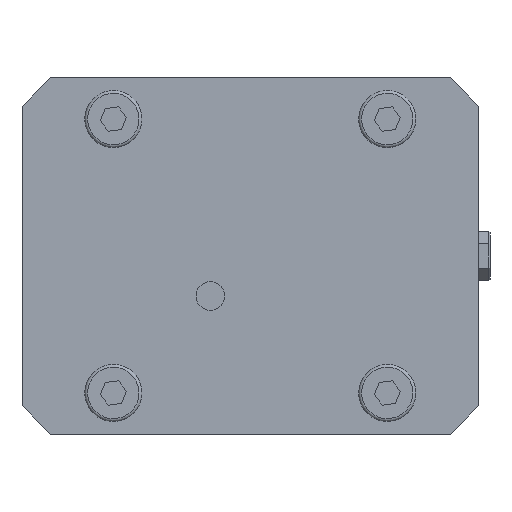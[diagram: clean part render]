
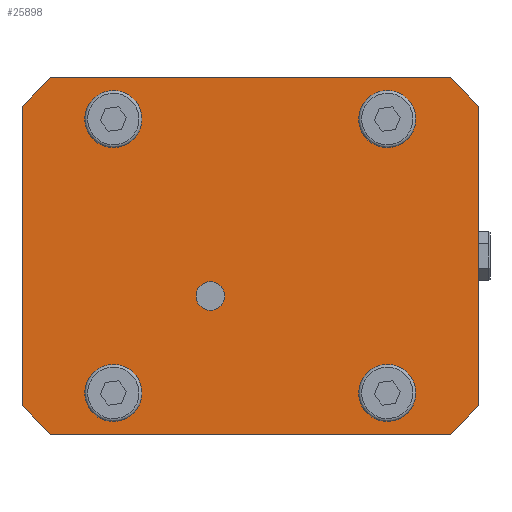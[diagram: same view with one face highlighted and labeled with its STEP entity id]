
A CAD part, front view. The second image highlights one B-rep face of the part: STEP entity #25898.
In plain terms, the highlighted planar face has unit normal (0, -1, 0).
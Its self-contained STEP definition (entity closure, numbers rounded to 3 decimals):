
#47 = AXIS2_PLACEMENT_3D ( 'NONE', #38485, #10433, #13110 ) ;
#2702 = VECTOR ( 'NONE', #30499, 1000. ) ;
#3549 = DIRECTION ( 'NONE',  ( 0., 0., -1. ) ) ;
#3553 = FACE_BOUND ( 'NONE', #28320, .T. ) ;
#4009 = FACE_OUTER_BOUND ( 'NONE', #44071, .T. ) ;
#4069 = CARTESIAN_POINT ( 'NONE',  ( 48., 0., 48. ) ) ;
#4362 = CIRCLE ( 'NONE', #43089, 8. ) ;
#4613 = ORIENTED_EDGE ( 'NONE', *, *, #39093, .T. ) ;
#5235 = DIRECTION ( 'NONE',  ( -1., 0., 0. ) ) ;
#6592 = VECTOR ( 'NONE', #31451, 1000. ) ;
#7080 = LINE ( 'NONE', #21305, #36572 ) ;
#7491 = CARTESIAN_POINT ( 'NONE',  ( -48., 0., 48. ) ) ;
#7901 = EDGE_CURVE ( 'NONE', #26261, #26261, #28909, .T. ) ;
#8027 = EDGE_CURVE ( 'NONE', #8096, #8096, #4362, .T. ) ;
#8096 = VERTEX_POINT ( 'NONE', #22346 ) ;
#8124 = CARTESIAN_POINT ( 'NONE',  ( -70., 0., 62.5 ) ) ;
#8578 = AXIS2_PLACEMENT_3D ( 'NONE', #4069, #35815, #18078 ) ;
#8585 = DIRECTION ( 'NONE',  ( 0., 1., 0. ) ) ;
#8833 = AXIS2_PLACEMENT_3D ( 'NONE', #15893, #31061, #45068 ) ;
#9557 = EDGE_CURVE ( 'NONE', #16388, #25493, #7080, .T. ) ;
#9944 = DIRECTION ( 'NONE',  ( -0.707, 0., -0.707 ) ) ;
#10173 = LINE ( 'NONE', #24199, #30420 ) ;
#10433 = DIRECTION ( 'NONE',  ( 0., 1., 0. ) ) ;
#10788 = FACE_BOUND ( 'NONE', #14899, .T. ) ;
#11023 = DIRECTION ( 'NONE',  ( 0., 1., 0. ) ) ;
#12808 = ORIENTED_EDGE ( 'NONE', *, *, #30305, .T. ) ;
#13110 = DIRECTION ( 'NONE',  ( 0., 0., -1. ) ) ;
#14180 = ORIENTED_EDGE ( 'NONE', *, *, #7901, .F. ) ;
#14307 = CARTESIAN_POINT ( 'NONE',  ( -56., 0., -48. ) ) ;
#14390 = CARTESIAN_POINT ( 'NONE',  ( 80., 0., 52.5 ) ) ;
#14632 = CARTESIAN_POINT ( 'NONE',  ( -70., 0., -62.5 ) ) ;
#14899 = EDGE_LOOP ( 'NONE', ( #26541 ) ) ;
#15642 = ORIENTED_EDGE ( 'NONE', *, *, #28352, .T. ) ;
#15893 = CARTESIAN_POINT ( 'NONE',  ( -14., 0., -14. ) ) ;
#16388 = VERTEX_POINT ( 'NONE', #24686 ) ;
#16707 = CARTESIAN_POINT ( 'NONE',  ( 80., 0., 52.5 ) ) ;
#17223 = VERTEX_POINT ( 'NONE', #14390 ) ;
#17295 = VERTEX_POINT ( 'NONE', #8124 ) ;
#18078 = DIRECTION ( 'NONE',  ( 1., 0., 0. ) ) ;
#18269 = FACE_BOUND ( 'NONE', #45901, .T. ) ;
#18743 = CIRCLE ( 'NONE', #47, 8. ) ;
#19310 = CARTESIAN_POINT ( 'NONE',  ( -80., 0., -52.5 ) ) ;
#19325 = CARTESIAN_POINT ( 'NONE',  ( -48., 0., -48. ) ) ;
#19404 = EDGE_CURVE ( 'NONE', #33473, #33473, #30960, .T. ) ;
#19550 = VECTOR ( 'NONE', #41377, 1000. ) ;
#19798 = DIRECTION ( 'NONE',  ( -1., 0., 0. ) ) ;
#20098 = EDGE_CURVE ( 'NONE', #37692, #37692, #18743, .T. ) ;
#20199 = VERTEX_POINT ( 'NONE', #43515 ) ;
#20447 = VERTEX_POINT ( 'NONE', #14307 ) ;
#20588 = CARTESIAN_POINT ( 'NONE',  ( 80., 0., 62.5 ) ) ;
#20703 = CARTESIAN_POINT ( 'NONE',  ( 70., 0., -62.5 ) ) ;
#21305 = CARTESIAN_POINT ( 'NONE',  ( -80., 0., -62.5 ) ) ;
#22346 = CARTESIAN_POINT ( 'NONE',  ( -48., 0., 56. ) ) ;
#22781 = EDGE_LOOP ( 'NONE', ( #34502 ) ) ;
#22943 = LINE ( 'NONE', #37144, #37606 ) ;
#23768 = ORIENTED_EDGE ( 'NONE', *, *, #34921, .T. ) ;
#23988 = CARTESIAN_POINT ( 'NONE',  ( 80., 0., -52.5 ) ) ;
#24199 = CARTESIAN_POINT ( 'NONE',  ( -70., 0., 62.5 ) ) ;
#24686 = CARTESIAN_POINT ( 'NONE',  ( -80., 0., 52.5 ) ) ;
#25012 = CARTESIAN_POINT ( 'NONE',  ( 80., 0., -62.5 ) ) ;
#25493 = VERTEX_POINT ( 'NONE', #19310 ) ;
#25898 = ADVANCED_FACE ( 'NONE', ( #32010, #10788, #3553, #32931, #18269, #4009 ), #28489, .F. ) ;
#26261 = VERTEX_POINT ( 'NONE', #33238 ) ;
#26541 = ORIENTED_EDGE ( 'NONE', *, *, #20098, .T. ) ;
#27212 = DIRECTION ( 'NONE',  ( -0.707, 0., 0.707 ) ) ;
#27410 = CARTESIAN_POINT ( 'NONE',  ( 56., 0., 48. ) ) ;
#27476 = AXIS2_PLACEMENT_3D ( 'NONE', #25012, #11023, #43679 ) ;
#27477 = ORIENTED_EDGE ( 'NONE', *, *, #38088, .T. ) ;
#28320 = EDGE_LOOP ( 'NONE', ( #4613 ) ) ;
#28352 = EDGE_CURVE ( 'NONE', #17223, #20199, #41718, .T. ) ;
#28489 = PLANE ( 'NONE',  #27476 ) ;
#28909 = CIRCLE ( 'NONE', #8833, 5. ) ;
#29229 = VERTEX_POINT ( 'NONE', #37484 ) ;
#30305 = EDGE_CURVE ( 'NONE', #39208, #29229, #30737, .T. ) ;
#30420 = VECTOR ( 'NONE', #9944, 1000. ) ;
#30499 = DIRECTION ( 'NONE',  ( 0.707, 0., 0.707 ) ) ;
#30512 = ORIENTED_EDGE ( 'NONE', *, *, #31623, .F. ) ;
#30737 = LINE ( 'NONE', #23988, #2702 ) ;
#30960 = CIRCLE ( 'NONE', #8578, 8. ) ;
#30970 = ORIENTED_EDGE ( 'NONE', *, *, #45626, .F. ) ;
#31061 = DIRECTION ( 'NONE',  ( 0., -1., 0. ) ) ;
#31369 = ORIENTED_EDGE ( 'NONE', *, *, #8027, .T. ) ;
#31451 = DIRECTION ( 'NONE',  ( 0.707, 0., -0.707 ) ) ;
#31496 = DIRECTION ( 'NONE',  ( 0., 1., 0. ) ) ;
#31623 = EDGE_CURVE ( 'NONE', #17223, #29229, #39723, .T. ) ;
#32010 = FACE_BOUND ( 'NONE', #22781, .T. ) ;
#32931 = FACE_BOUND ( 'NONE', #39831, .T. ) ;
#33238 = CARTESIAN_POINT ( 'NONE',  ( -14., 0., -19. ) ) ;
#33473 = VERTEX_POINT ( 'NONE', #27410 ) ;
#34158 = VERTEX_POINT ( 'NONE', #14632 ) ;
#34433 = CARTESIAN_POINT ( 'NONE',  ( 48., 0., -56. ) ) ;
#34502 = ORIENTED_EDGE ( 'NONE', *, *, #19404, .T. ) ;
#34748 = LINE ( 'NONE', #34969, #6592 ) ;
#34921 = EDGE_CURVE ( 'NONE', #20199, #17295, #44616, .T. ) ;
#34969 = CARTESIAN_POINT ( 'NONE',  ( -70., 0., -62.5 ) ) ;
#35815 = DIRECTION ( 'NONE',  ( 0., 1., 0. ) ) ;
#36207 = CARTESIAN_POINT ( 'NONE',  ( 80., 0., -62.5 ) ) ;
#36572 = VECTOR ( 'NONE', #3549, 1000. ) ;
#37144 = CARTESIAN_POINT ( 'NONE',  ( 80., 0., -62.5 ) ) ;
#37484 = CARTESIAN_POINT ( 'NONE',  ( 80., 0., -52.5 ) ) ;
#37606 = VECTOR ( 'NONE', #5235, 1000. ) ;
#37692 = VERTEX_POINT ( 'NONE', #34433 ) ;
#38088 = EDGE_CURVE ( 'NONE', #25493, #34158, #34748, .T. ) ;
#38353 = EDGE_CURVE ( 'NONE', #17295, #16388, #10173, .T. ) ;
#38485 = CARTESIAN_POINT ( 'NONE',  ( 48., 0., -48. ) ) ;
#39093 = EDGE_CURVE ( 'NONE', #20447, #20447, #39396, .T. ) ;
#39208 = VERTEX_POINT ( 'NONE', #20703 ) ;
#39396 = CIRCLE ( 'NONE', #42448, 8. ) ;
#39433 = ORIENTED_EDGE ( 'NONE', *, *, #9557, .T. ) ;
#39723 = LINE ( 'NONE', #36207, #45337 ) ;
#39831 = EDGE_LOOP ( 'NONE', ( #31369 ) ) ;
#41377 = DIRECTION ( 'NONE',  ( -1., 0., 0. ) ) ;
#41718 = LINE ( 'NONE', #16707, #42754 ) ;
#42032 = DIRECTION ( 'NONE',  ( 0., 0., 1. ) ) ;
#42448 = AXIS2_PLACEMENT_3D ( 'NONE', #19325, #8585, #19798 ) ;
#42754 = VECTOR ( 'NONE', #27212, 1000. ) ;
#43089 = AXIS2_PLACEMENT_3D ( 'NONE', #7491, #31496, #42032 ) ;
#43515 = CARTESIAN_POINT ( 'NONE',  ( 70., 0., 62.5 ) ) ;
#43655 = DIRECTION ( 'NONE',  ( 0., 0., -1. ) ) ;
#43679 = DIRECTION ( 'NONE',  ( 0., 0., 1. ) ) ;
#44071 = EDGE_LOOP ( 'NONE', ( #23768, #44935, #39433, #27477, #30970, #12808, #30512, #15642 ) ) ;
#44616 = LINE ( 'NONE', #20588, #19550 ) ;
#44935 = ORIENTED_EDGE ( 'NONE', *, *, #38353, .T. ) ;
#45068 = DIRECTION ( 'NONE',  ( 0., 0., -1. ) ) ;
#45337 = VECTOR ( 'NONE', #43655, 1000. ) ;
#45626 = EDGE_CURVE ( 'NONE', #39208, #34158, #22943, .T. ) ;
#45901 = EDGE_LOOP ( 'NONE', ( #14180 ) ) ;
